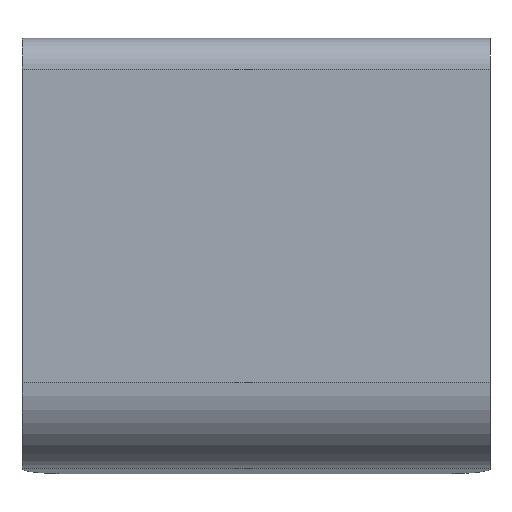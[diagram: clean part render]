
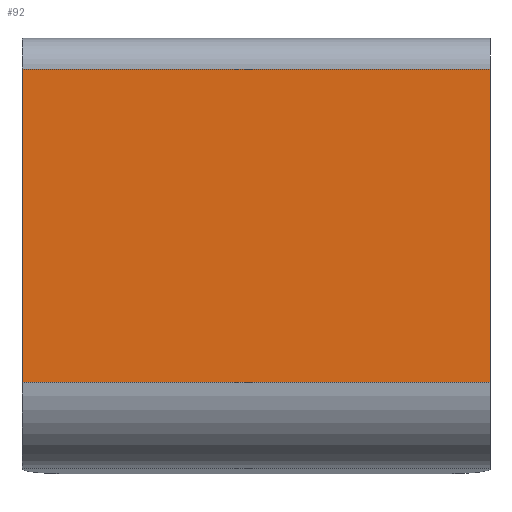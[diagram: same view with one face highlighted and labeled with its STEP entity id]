
A CAD part, top view. The second image highlights one B-rep face of the part: STEP entity #92.
In plain terms, the highlighted planar face has unit normal (0, 0, 1).
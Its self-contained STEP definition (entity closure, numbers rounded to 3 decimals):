
#92 = ADVANCED_FACE( '', ( #136 ), #137, .T. );
#136 = FACE_OUTER_BOUND( '', #192, .T. );
#137 = PLANE( '', #193 );
#192 = EDGE_LOOP( '', ( #351, #352, #353, #354 ) );
#193 = AXIS2_PLACEMENT_3D( '', #355, #356, #357 );
#351 = ORIENTED_EDGE( '', *, *, #467, .F. );
#352 = ORIENTED_EDGE( '', *, *, #489, .T. );
#353 = ORIENTED_EDGE( '', *, *, #471, .T. );
#354 = ORIENTED_EDGE( '', *, *, #490, .F. );
#355 = CARTESIAN_POINT( '', ( 31.5, -2.5, 7.5 ) );
#356 = DIRECTION( '', ( 0., 0., 1. ) );
#357 = DIRECTION( '', ( 0., 1., 0. ) );
#467 = EDGE_CURVE( '', #562, #564, #565, .T. );
#471 = EDGE_CURVE( '', #570, #571, #572, .T. );
#489 = EDGE_CURVE( '', #562, #570, #601, .T. );
#490 = EDGE_CURVE( '', #564, #571, #602, .T. );
#562 = VERTEX_POINT( '', #695 );
#564 = VERTEX_POINT( '', #697 );
#565 = LINE( '', #698, #699 );
#570 = VERTEX_POINT( '', #705 );
#571 = VERTEX_POINT( '', #706 );
#572 = LINE( '', #707, #708 );
#601 = LINE( '', #746, #747 );
#602 = LINE( '', #748, #749 );
#695 = CARTESIAN_POINT( '', ( 31.5, -2.5, 7.5 ) );
#697 = CARTESIAN_POINT( '', ( 31.5, -27.921, 7.5 ) );
#698 = CARTESIAN_POINT( '', ( 31.5, -2.5, 7.5 ) );
#699 = VECTOR( '', #835, 1. );
#705 = CARTESIAN_POINT( '', ( -6.5, -2.5, 7.5 ) );
#706 = CARTESIAN_POINT( '', ( -6.5, -27.921, 7.5 ) );
#707 = CARTESIAN_POINT( '', ( -6.5, -2.5, 7.5 ) );
#708 = VECTOR( '', #843, 1. );
#746 = CARTESIAN_POINT( '', ( 31.5, -2.5, 7.5 ) );
#747 = VECTOR( '', #877, 1. );
#748 = CARTESIAN_POINT( '', ( 31.5, -27.921, 7.5 ) );
#749 = VECTOR( '', #878, 1. );
#835 = DIRECTION( '', ( 0., -1., 0. ) );
#843 = DIRECTION( '', ( 0., -1., 0. ) );
#877 = DIRECTION( '', ( -1., 0., 0. ) );
#878 = DIRECTION( '', ( -1., 0., 0. ) );
